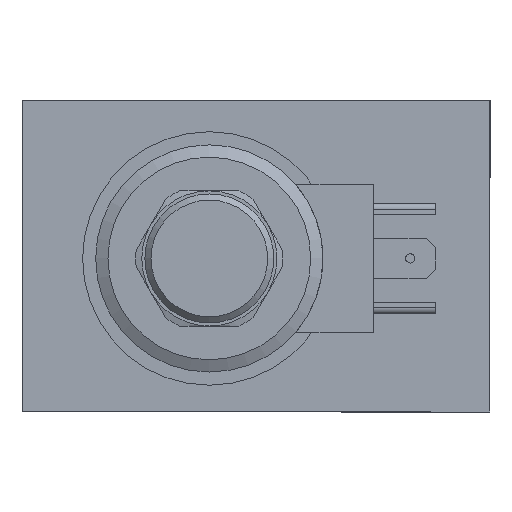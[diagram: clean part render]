
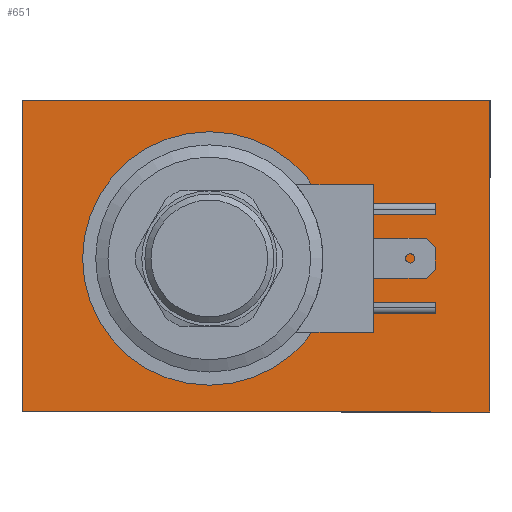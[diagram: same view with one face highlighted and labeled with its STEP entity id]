
A CAD part, front view. The second image highlights one B-rep face of the part: STEP entity #651.
In plain terms, the highlighted planar face has unit normal (0, -1, 0).
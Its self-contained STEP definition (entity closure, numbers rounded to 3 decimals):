
#651 = ADVANCED_FACE( '', ( #1298, #1299 ), #1300, .F. );
#1298 = FACE_BOUND( '', #2018, .T. );
#1299 = FACE_OUTER_BOUND( '', #2019, .T. );
#1300 = PLANE( '', #2020 );
#2018 = EDGE_LOOP( '', ( #3122 ) );
#2019 = EDGE_LOOP( '', ( #3123, #3124, #3125, #3126 ) );
#2020 = AXIS2_PLACEMENT_3D( '', #3127, #3128, #3129 );
#3122 = ORIENTED_EDGE( '', *, *, #4396, .T. );
#3123 = ORIENTED_EDGE( '', *, *, #4397, .F. );
#3124 = ORIENTED_EDGE( '', *, *, #4398, .F. );
#3125 = ORIENTED_EDGE( '', *, *, #4399, .F. );
#3126 = ORIENTED_EDGE( '', *, *, #4400, .F. );
#3127 = CARTESIAN_POINT( '', ( 0., 0., 0. ) );
#3128 = DIRECTION( '', ( 0., 1., 0. ) );
#3129 = DIRECTION( '', ( 0., 0., 1. ) );
#4396 = EDGE_CURVE( '', #5239, #5239, #5240, .T. );
#4397 = EDGE_CURVE( '', #5241, #5242, #5243, .T. );
#4398 = EDGE_CURVE( '', #5244, #5241, #5245, .T. );
#4399 = EDGE_CURVE( '', #5246, #5244, #5247, .T. );
#4400 = EDGE_CURVE( '', #5242, #5246, #5248, .T. );
#5239 = VERTEX_POINT( '', #6692 );
#5240 = CIRCLE( '', #6693, 20.638 );
#5241 = VERTEX_POINT( '', #6694 );
#5242 = VERTEX_POINT( '', #6695 );
#5243 = LINE( '', #6696, #6697 );
#5244 = VERTEX_POINT( '', #6698 );
#5245 = LINE( '', #6699, #6700 );
#5246 = VERTEX_POINT( '', #6701 );
#5247 = LINE( '', #6702, #6703 );
#5248 = LINE( '', #6704, #6705 );
#6692 = CARTESIAN_POINT( '', ( 45.7, 0., 5.163 ) );
#6693 = AXIS2_PLACEMENT_3D( '', #7711, #7712, #7713 );
#6694 = CARTESIAN_POINT( '', ( 76.2, 0., 0. ) );
#6695 = CARTESIAN_POINT( '', ( 0., 0., 0. ) );
#6696 = CARTESIAN_POINT( '', ( 76.2, 0., 0. ) );
#6697 = VECTOR( '', #7714, 1000. );
#6698 = CARTESIAN_POINT( '', ( 76.2, 0., 50.8 ) );
#6699 = CARTESIAN_POINT( '', ( 76.2, 0., 50.8 ) );
#6700 = VECTOR( '', #7715, 1000. );
#6701 = CARTESIAN_POINT( '', ( 0., 0., 50.8 ) );
#6702 = CARTESIAN_POINT( '', ( 0., 0., 50.8 ) );
#6703 = VECTOR( '', #7716, 1000. );
#6704 = CARTESIAN_POINT( '', ( 0., 0., 0. ) );
#6705 = VECTOR( '', #7717, 1000. );
#7711 = CARTESIAN_POINT( '', ( 45.7, 0., 25.8 ) );
#7712 = DIRECTION( '', ( 0., 1., 0. ) );
#7713 = DIRECTION( '', ( 0., 0., -1. ) );
#7714 = DIRECTION( '', ( -1., 0., 0. ) );
#7715 = DIRECTION( '', ( 0., 0., -1. ) );
#7716 = DIRECTION( '', ( 1., 0., 0. ) );
#7717 = DIRECTION( '', ( 0., 0., 1. ) );
